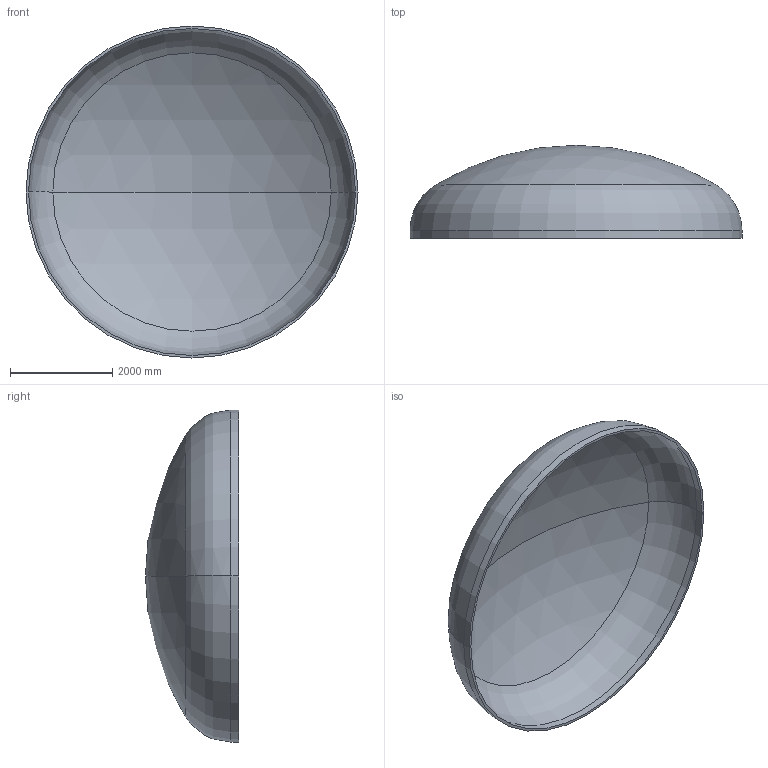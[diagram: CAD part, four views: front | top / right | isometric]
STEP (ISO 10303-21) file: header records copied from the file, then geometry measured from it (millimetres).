
FILE_DESCRIPTION (( 'STEP AP203' ), '1' );
FILE_NAME ('DIN 28013 Korbbogenform_-_Boden DIN 28013 - 6500 x 150 - I - s=49.step', '2016-07-04T10:42:21', ( '' ), ( '' ), 'SwSTEP 2.0', 'SolidWorks 2013', '' );
FILE_SCHEMA (( 'CONFIG_CONTROL_DESIGN' ));
Length unit declared in the file: millimetre
Products named in the file (1): DIN 28013 Korbbogenform_-_Boden DIN 28013 - 6500 x 150 - I - s=49
Bounding box: 6500 x 1821.91 x 6500 mm (x, y, z)
Volume: 2378152414 mm3; surface area: 98065491.3 mm2
Topology: 1 solids, 1 shells, 13 faces, 24 edges, 14 vertices
Faces by surface type: torus 4, cylinder 4, sphere 4, plane 1
Entity records: 407 total; most frequent: DIRECTION 72, CARTESIAN_POINT 52, ORIENTED_EDGE 48, AXIS2_PLACEMENT_3D 34, EDGE_CURVE 24, CIRCLE 20, VERTEX_POINT 14, EDGE_LOOP 14
